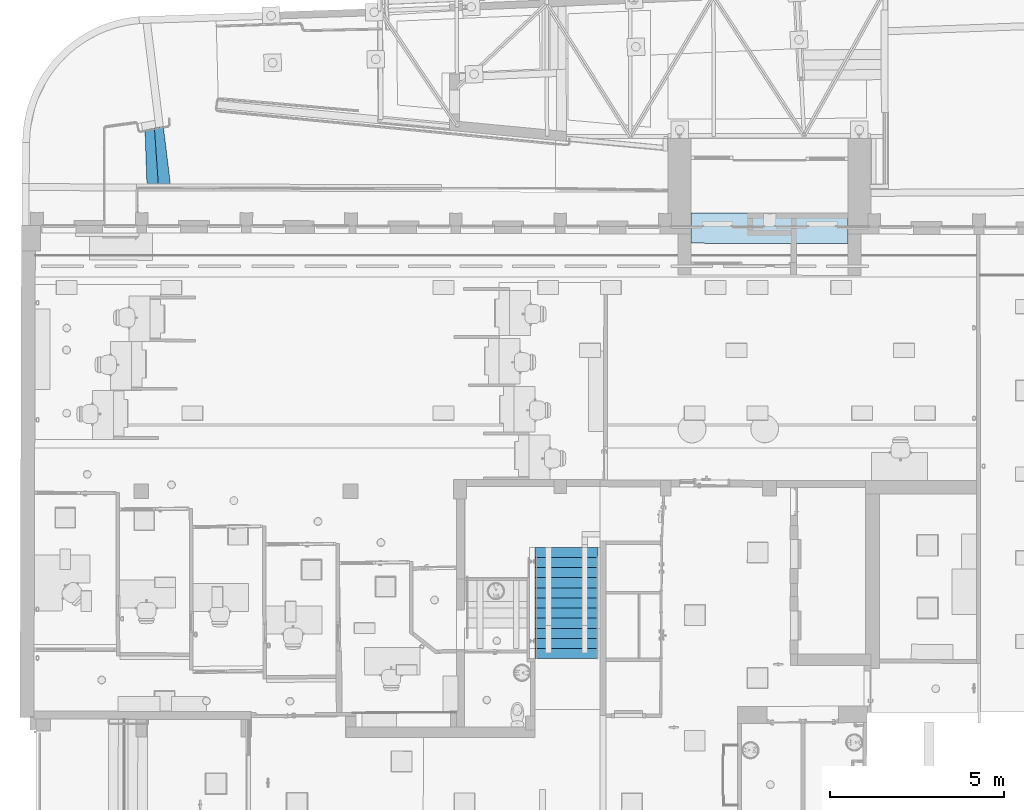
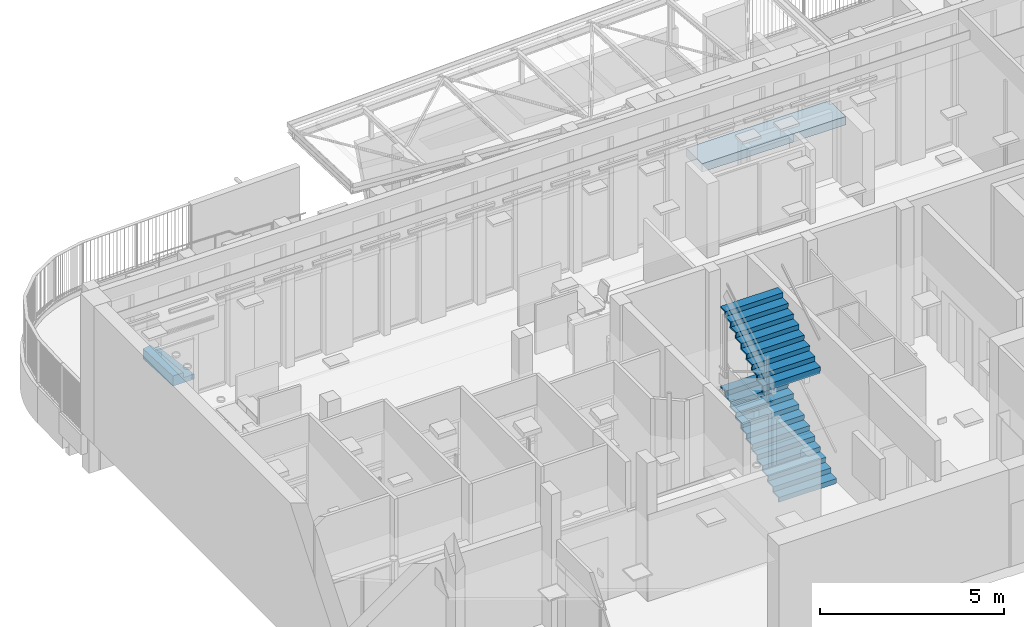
# One storey, part 34 of 128: 3 stair flights, 1 roof, 2 elements without a shape of their own.
"""IFC2X3 building model written with IfcOpenShell, lengths in metres."""

from ifc_helpers import new_model, entity, si_unit, converted_unit, derived_unit, direction, frame, origin, place, context, subcontext, project, spatial, polyline, outline, extrude, faceted_brep, material, layer, layer_set, type_object, element, aggregate, save


model = new_model("IFC2X3")

# Units and contexts
model_context = context("Model", 3, precision=1e-05, world=origin(), true_north=direction((6.123031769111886e-17, 1.0)))
body_context = subcontext(model_context, "Body", "Model", "MODEL_VIEW")
ifc_project = project(units=[si_unit("LENGTHUNIT", "METRE"), si_unit("AREAUNIT", "SQUARE_METRE"), converted_unit("PLANEANGLEUNIT", "DEGREE", entity("IfcPlaneAngleMeasure", 0.017453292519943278), si_unit("PLANEANGLEUNIT", "RADIAN"), dimensions=[0, 0, 0, 0, 0, 0, 0]), derived_unit("THERMALTRANSMITTANCEUNIT", [(si_unit("MASSUNIT", "GRAM", prefix="KILO"), 1), (si_unit("THERMODYNAMICTEMPERATUREUNIT", "KELVIN"), -1), (si_unit("TIMEUNIT", "SECOND"), -3)])], contexts=[model_context])

# Site, building, storey
site_placement = place(None, origin())
site = spatial("IfcSite", under=ifc_project, at=site_placement, Name="Default", CompositionType="ELEMENT")
building_placement = place(site_placement, origin())
building = spatial("IfcBuilding", under=site, at=building_placement, CompositionType="ELEMENT")
storey_placement = place(building_placement, origin())
storey = spatial("IfcBuildingStorey", under=building, at=storey_placement, Name="00_RDC CAF", CompositionType="ELEMENT", Elevation=2.4982504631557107e-13)

# Stair, stair flights
type_product_1 = type_object("IfcTypeProduct", Name="Escalier assemblé:E_Escalier_Assemble_Béton 2")
stair_1_placement = place(storey_placement, origin())
stair_1 = element("IfcStair", 1, at=stair_1_placement, inside=storey, type_object=type_product_1, Name="Escalier assemblé:Escalier", ObjectType="Escalier assemblé:E_Escalier_Assemble_Béton 2", ShapeType="NOTDEFINED")
ifc_material_1 = material(Name="STR - Beton")
stair_flight_type_1 = type_object("IfcStairFlightType", Name="Volée non-monobloc:Béton_Marche 50 mm avec Contremarche + nez 30mm 2", PredefinedType="STRAIGHT")
stair_flight_1_placement = place(stair_1_placement, origin())
stair_flight_1 = element("IfcStairFlight", 2, at=stair_flight_1_placement, type_object=stair_flight_type_1, material=ifc_material_1, Name="Escalier assemblé:Escalier:459485 Run 1", ObjectType="Volée non-monobloc:Béton_Marche 50 mm avec Contremarche + nez 30mm 2", NumberOfRiser=11, NumberOfTreads=11, RiserHeight=0.5776801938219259, TreadLength=0.9514435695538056, context=body_context, shape_type="SweptSolid", body=[
    extrude(outline(polyline([(-0.04265421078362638, -0.15400967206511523), (0.007667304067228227, -0.15400967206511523), (0.04265421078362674, 0.15400967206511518), (-0.007667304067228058, 0.1540096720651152), (-0.04265421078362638, -0.15400967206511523)])), frame((21.029127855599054, 131.91132267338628, 0.1510769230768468), z_axis=(1.0, 0.0, 0.0), x_axis=(0.0, 0.11286098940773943, -0.9936107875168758)), (0.0, 0.0, 1.0), 1.799999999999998),
    extrude(outline(polyline([(-0.0662834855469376, -0.02500000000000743), (0.06060414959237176, -0.025000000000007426), (0.06628348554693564, 0.024999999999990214), (-0.06060414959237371, 0.02499999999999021), (-0.0662834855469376, -0.02500000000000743)])), frame((21.029127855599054, 131.79148343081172, 0.06303846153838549), z_axis=(1.0, 0.0, 0.0), x_axis=(0.0, 0.11286098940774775, -0.9936107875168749)), (0.0, 0.0, 1.0), 1.7999999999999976),
    extrude(outline(polyline([(-0.09144424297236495, -0.02500000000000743), (0.0857649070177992, -0.02500000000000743), (0.09144424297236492, 0.025000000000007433), (-0.08576490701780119, 0.024999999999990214), (-0.09144424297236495, -0.02500000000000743)])), frame((21.029127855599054, 132.084323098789, 0.2141153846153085), z_axis=(1.0, 0.0, 0.0), x_axis=(0.0, 0.11286098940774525, -0.9936107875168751)), (0.0, 0.0, 1.0), 1.799999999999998),
    extrude(outline(polyline([(-0.04265421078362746, -0.15400967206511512), (0.007667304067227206, -0.15400967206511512), (0.042654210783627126, 0.15400967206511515), (-0.0076673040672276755, 0.15400967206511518), (-0.04265421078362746, -0.15400967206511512)])), frame((21.029127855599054, 132.2013226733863, 0.32715384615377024), z_axis=(1.0, 0.0, 0.0), x_axis=(0.0, 0.11286098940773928, -0.9936107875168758)), (0.0, 0.0, 1.0), 1.799999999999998),
    extrude(outline(polyline([(-0.09144424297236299, -0.024999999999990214), (0.08576490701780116, -0.024999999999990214), (0.09144424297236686, 0.025000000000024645), (-0.08576490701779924, 0.02500000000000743), (-0.09144424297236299, -0.024999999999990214)])), frame((21.029127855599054, 132.37432309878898, 0.3901923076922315), z_axis=(1.0, 0.0, 0.0), x_axis=(0.0, 0.11286098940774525, -0.9936107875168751)), (0.0, 0.0, 1.0), 1.799999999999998),
    extrude(outline(polyline([(-0.04265421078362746, -0.15400967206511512), (0.007667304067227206, -0.15400967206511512), (0.042654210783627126, 0.15400967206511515), (-0.0076673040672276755, 0.15400967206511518), (-0.04265421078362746, -0.15400967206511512)])), frame((21.029127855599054, 132.4913226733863, 0.5032307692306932), z_axis=(1.0, 0.0, 0.0), x_axis=(0.0, 0.11286098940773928, -0.9936107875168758)), (0.0, 0.0, 1.0), 1.799999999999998),
    extrude(outline(polyline([(-0.09144424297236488, -0.02500000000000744), (0.0857649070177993, -0.02500000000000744), (0.09144424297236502, 0.025000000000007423), (-0.08576490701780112, 0.02499999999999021), (-0.09144424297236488, -0.02500000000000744)])), frame((21.029127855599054, 132.664323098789, 0.5662692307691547), z_axis=(1.0, 0.0, 0.0), x_axis=(0.0, 0.11286098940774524, -0.9936107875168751)), (0.0, 0.0, 1.0), 1.799999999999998),
    extrude(outline(polyline([(-0.042654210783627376, -0.15400967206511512), (0.007667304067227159, -0.15400967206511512), (0.04265421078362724, 0.15400967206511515), (-0.007667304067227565, 0.15400967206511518), (-0.042654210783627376, -0.15400967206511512)])), frame((21.029127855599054, 132.78132267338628, 0.6793076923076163), z_axis=(1.0, 0.0, 0.0), x_axis=(0.0, 0.11286098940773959, -0.9936107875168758)), (0.0, 0.0, 1.0), 1.799999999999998),
    extrude(outline(polyline([(-0.09144424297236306, -0.024999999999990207), (0.08576490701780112, -0.02499999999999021), (0.09144424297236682, 0.02500000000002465), (-0.0857649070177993, 0.02500000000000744), (-0.09144424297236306, -0.024999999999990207)])), frame((21.029127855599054, 132.954323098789, 0.7423461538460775), z_axis=(1.0, 0.0, 0.0), x_axis=(0.0, 0.11286098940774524, -0.9936107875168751)), (0.0, 0.0, 1.0), 1.799999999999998),
    extrude(outline(polyline([(-0.04265421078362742, -0.15400967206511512), (0.00766730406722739, -0.15400967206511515), (0.04265421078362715, 0.15400967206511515), (-0.007667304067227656, 0.15400967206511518), (-0.04265421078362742, -0.15400967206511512)])), frame((21.029127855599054, 133.07132267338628, 0.8553846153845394), z_axis=(1.0, 0.0, 0.0), x_axis=(0.0, 0.11286098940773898, -0.9936107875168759)), (0.0, 0.0, 1.0), 1.7999999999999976),
    extrude(outline(polyline([(-0.09144424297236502, -0.025000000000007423), (0.08576490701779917, -0.025000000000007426), (0.09144424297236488, 0.02500000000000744), (-0.08576490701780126, 0.02499999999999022), (-0.09144424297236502, -0.025000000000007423)])), frame((21.029127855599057, 133.244323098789, 0.9184230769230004), z_axis=(1.0, 0.0, 0.0), x_axis=(0.0, 0.11286098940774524, -0.9936107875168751)), (0.0, 0.0, 1.0), 1.799999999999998),
    extrude(outline(polyline([(-0.04265421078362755, -0.15400967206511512), (0.007667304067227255, -0.15400967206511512), (0.04265421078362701, 0.15400967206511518), (-0.007667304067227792, 0.15400967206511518), (-0.04265421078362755, -0.15400967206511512)])), frame((21.029127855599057, 133.3613226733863, 1.0314615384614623), z_axis=(1.0, 0.0, 0.0), x_axis=(0.0, 0.11286098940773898, -0.9936107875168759)), (0.0, 0.0, 1.0), 1.7999999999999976),
    extrude(outline(polyline([(-0.09144424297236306, -0.024999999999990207), (0.08576490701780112, -0.02499999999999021), (0.09144424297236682, 0.02500000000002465), (-0.0857649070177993, 0.02500000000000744), (-0.09144424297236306, -0.024999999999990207)])), frame((21.029127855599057, 133.534323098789, 1.0944999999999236), z_axis=(1.0, 0.0, 0.0), x_axis=(0.0, 0.11286098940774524, -0.9936107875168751)), (0.0, 0.0, 1.0), 1.799999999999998),
    extrude(outline(polyline([(-0.04265421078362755, -0.15400967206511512), (0.007667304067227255, -0.15400967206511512), (0.04265421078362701, 0.15400967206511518), (-0.007667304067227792, 0.15400967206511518), (-0.04265421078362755, -0.15400967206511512)])), frame((21.029127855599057, 133.6513226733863, 1.2075384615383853), z_axis=(1.0, 0.0, 0.0), x_axis=(0.0, 0.11286098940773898, -0.9936107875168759)), (0.0, 0.0, 1.0), 1.7999999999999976),
    extrude(outline(polyline([(-0.09144424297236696, -0.025000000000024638), (0.0857649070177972, -0.02500000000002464), (0.09144424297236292, 0.02499999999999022), (-0.0857649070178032, 0.02499999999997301), (-0.09144424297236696, -0.025000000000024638)])), frame((21.029127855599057, 133.82432309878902, 1.2705769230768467), z_axis=(1.0, 0.0, 0.0), x_axis=(0.0, 0.11286098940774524, -0.9936107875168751)), (0.0, 0.0, 1.0), 1.799999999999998),
    extrude(outline(polyline([(-0.04265421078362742, -0.15400967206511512), (0.00766730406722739, -0.15400967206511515), (0.04265421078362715, 0.15400967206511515), (-0.007667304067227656, 0.15400967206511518), (-0.04265421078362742, -0.15400967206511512)])), frame((21.029127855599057, 133.94132267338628, 1.3836153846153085), z_axis=(1.0, 0.0, 0.0), x_axis=(0.0, 0.11286098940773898, -0.9936107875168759)), (0.0, 0.0, 1.0), 1.7999999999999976),
    extrude(outline(polyline([(-0.09144424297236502, -0.025000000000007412), (0.08576490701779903, -0.025000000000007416), (0.09144424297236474, 0.025000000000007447), (-0.08576490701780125, 0.02499999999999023), (-0.09144424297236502, -0.025000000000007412)])), frame((21.029127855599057, 134.114323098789, 1.4466538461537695), z_axis=(1.0, 0.0, 0.0), x_axis=(0.0, 0.11286098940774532, -0.9936107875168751)), (0.0, 0.0, 1.0), 1.799999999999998),
    extrude(outline(polyline([(-0.04265421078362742, -0.15400967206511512), (0.00766730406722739, -0.15400967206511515), (0.04265421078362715, 0.15400967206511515), (-0.007667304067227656, 0.15400967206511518), (-0.04265421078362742, -0.15400967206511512)])), frame((21.029127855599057, 134.23132267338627, 1.5596923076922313), z_axis=(1.0, 0.0, 0.0), x_axis=(0.0, 0.11286098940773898, -0.9936107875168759)), (0.0, 0.0, 1.0), 1.7999999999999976),
    extrude(outline(polyline([(-0.09144424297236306, -0.024999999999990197), (0.08576490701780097, -0.0249999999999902), (0.0914442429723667, 0.02500000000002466), (-0.0857649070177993, 0.025000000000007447), (-0.09144424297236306, -0.024999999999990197)])), frame((21.029127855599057, 134.40432309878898, 1.6227307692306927), z_axis=(1.0, 0.0, 0.0), x_axis=(0.0, 0.11286098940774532, -0.9936107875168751)), (0.0, 0.0, 1.0), 1.799999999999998),
    extrude(outline(polyline([(-0.04265421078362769, -0.15400967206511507), (0.0076673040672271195, -0.15400967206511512), (0.04265421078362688, 0.15400967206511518), (-0.007667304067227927, 0.15400967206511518), (-0.04265421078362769, -0.15400967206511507)])), frame((21.029127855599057, 134.5213226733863, 1.7357692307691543), z_axis=(1.0, 0.0, 0.0), x_axis=(0.0, 0.11286098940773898, -0.9936107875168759)), (0.0, 0.0, 1.0), 1.7999999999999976),
    extrude(outline(polyline([(-0.09144424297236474, -0.025000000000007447), (0.0857649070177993, -0.025000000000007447), (0.09144424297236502, 0.025000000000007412), (-0.08576490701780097, 0.0249999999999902), (-0.09144424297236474, -0.025000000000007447)])), frame((21.029127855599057, 134.694323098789, 1.798807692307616), z_axis=(1.0, 0.0, 0.0), x_axis=(0.0, 0.11286098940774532, -0.9936107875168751)), (0.0, 0.0, 1.0), 1.799999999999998),
    extrude(outline(polyline([(-0.04136535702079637, -0.14266280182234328), (0.008956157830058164, -0.14266280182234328), (0.041044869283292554, 0.13984127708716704), (-0.00863567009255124, 0.14548432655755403), (-0.04136535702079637, -0.14266280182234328)])), frame((21.029127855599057, 134.79990283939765, 1.9118461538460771), z_axis=(1.0, 0.0, 0.0), x_axis=(0.0, 0.11286098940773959, -0.9936107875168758)), (0.0, 0.0, 1.0), 1.799999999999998),
])
stair_flight_2_placement = place(stair_1_placement, origin())
stair_flight_2 = element("IfcStairFlight", 3, at=stair_flight_2_placement, type_object=stair_flight_type_1, material=ifc_material_1, Name="Escalier assemblé:Escalier:459485 Run 3", ObjectType="Volée non-monobloc:Béton_Marche 50 mm avec Contremarche + nez 30mm 2", NumberOfRiser=8, NumberOfTreads=8, RiserHeight=0.5776801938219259, TreadLength=0.9514435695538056, context=body_context, shape_type="SweptSolid", body=[
    extrude(outline(polyline([(-0.04265421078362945, -0.1540096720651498), (0.007667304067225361, -0.15400967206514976), (0.04265421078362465, 0.15400967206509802), (-0.007667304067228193, 0.1540096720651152), (-0.04265421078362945, -0.1540096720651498)])), frame((21.02912785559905, 132.7813226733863, 3.3204615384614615), z_axis=(1.0, 0.0, 0.0), x_axis=(0.0, 0.11286098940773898, -0.9936107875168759)), (0.0, 0.0, 1.0), 1.8000000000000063),
    extrude(outline(polyline([(-0.091444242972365, -0.02500000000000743), (0.0857649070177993, -0.02500000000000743), (0.091444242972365, 0.02500000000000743), (-0.08576490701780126, 0.024999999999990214), (-0.091444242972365, -0.02500000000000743)])), frame((21.02912785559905, 132.66432309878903, 3.2074230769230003), z_axis=(1.0, 0.0, 0.0), x_axis=(0.0, 0.11286098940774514, -0.9936107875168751)), (0.0, 0.0, 1.0), 1.8000000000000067),
    extrude(outline(polyline([(-0.091444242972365, -0.02500000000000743), (0.0857649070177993, -0.02500000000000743), (0.091444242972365, 0.02500000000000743), (-0.08576490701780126, 0.024999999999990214), (-0.091444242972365, -0.02500000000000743)])), frame((21.02912785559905, 132.95432309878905, 3.383499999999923), z_axis=(1.0, 0.0, 0.0), x_axis=(0.0, 0.11286098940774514, -0.9936107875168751)), (0.0, 0.0, 1.0), 1.8000000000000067),
    extrude(outline(polyline([(-0.042654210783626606, -0.1540096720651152), (0.007667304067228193, -0.1540096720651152), (0.04265421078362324, 0.15400967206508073), (-0.007667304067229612, 0.15400967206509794), (-0.042654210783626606, -0.1540096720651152)])), frame((21.029127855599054, 133.07132267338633, 3.4965384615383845), z_axis=(1.0, 0.0, 0.0), x_axis=(0.0, 0.11286098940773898, -0.9936107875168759)), (0.0, 0.0, 1.0), 1.8000000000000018),
    extrude(outline(polyline([(-0.091444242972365, -0.02500000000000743), (0.0857649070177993, -0.02500000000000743), (0.091444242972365, 0.02500000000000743), (-0.08576490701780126, 0.024999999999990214), (-0.091444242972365, -0.02500000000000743)])), frame((21.02912785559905, 133.244323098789, 3.559576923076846), z_axis=(1.0, 0.0, 0.0), x_axis=(0.0, 0.11286098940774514, -0.9936107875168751)), (0.0, 0.0, 1.0), 1.8000000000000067),
    extrude(outline(polyline([(-0.042654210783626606, -0.1540096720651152), (0.007667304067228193, -0.1540096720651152), (0.04265421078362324, 0.15400967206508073), (-0.007667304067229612, 0.15400967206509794), (-0.042654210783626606, -0.1540096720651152)])), frame((21.029127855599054, 133.3613226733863, 3.672615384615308), z_axis=(1.0, 0.0, 0.0), x_axis=(0.0, 0.11286098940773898, -0.9936107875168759)), (0.0, 0.0, 1.0), 1.8000000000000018),
    extrude(outline(polyline([(-0.091444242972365, -0.02500000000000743), (0.0857649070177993, -0.02500000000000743), (0.091444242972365, 0.02500000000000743), (-0.08576490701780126, 0.024999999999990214), (-0.091444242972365, -0.02500000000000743)])), frame((21.029127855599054, 133.53432309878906, 3.7356538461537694), z_axis=(1.0, 0.0, 0.0), x_axis=(0.0, 0.11286098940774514, -0.9936107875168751)), (0.0, 0.0, 1.0), 1.8000000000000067),
    extrude(outline(polyline([(-0.042654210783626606, -0.1540096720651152), (0.007667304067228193, -0.1540096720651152), (0.04265421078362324, 0.15400967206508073), (-0.007667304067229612, 0.15400967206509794), (-0.042654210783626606, -0.1540096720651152)])), frame((21.029127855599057, 133.65132267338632, 3.848692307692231), z_axis=(1.0, 0.0, 0.0), x_axis=(0.0, 0.11286098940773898, -0.9936107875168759)), (0.0, 0.0, 1.0), 1.8000000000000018),
    extrude(outline(polyline([(-0.091444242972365, -0.02500000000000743), (0.0857649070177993, -0.02500000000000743), (0.091444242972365, 0.02500000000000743), (-0.08576490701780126, 0.024999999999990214), (-0.091444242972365, -0.02500000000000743)])), frame((21.029127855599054, 133.82432309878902, 3.9117307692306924), z_axis=(1.0, 0.0, 0.0), x_axis=(0.0, 0.11286098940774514, -0.9936107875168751)), (0.0, 0.0, 1.0), 1.8000000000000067),
    extrude(outline(polyline([(-0.04265421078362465, -0.15400967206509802), (0.00766730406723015, -0.154009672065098), (0.04265421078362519, 0.15400967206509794), (-0.007667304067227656, 0.15400967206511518), (-0.04265421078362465, -0.15400967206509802)])), frame((21.029127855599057, 133.9413226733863, 4.024769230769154), z_axis=(1.0, 0.0, 0.0), x_axis=(0.0, 0.11286098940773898, -0.9936107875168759)), (0.0, 0.0, 1.0), 1.8000000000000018),
    extrude(outline(polyline([(-0.09144424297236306, -0.024999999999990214), (0.08576490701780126, -0.024999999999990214), (0.09144424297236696, 0.025000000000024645), (-0.0857649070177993, 0.02500000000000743), (-0.09144424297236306, -0.024999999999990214)])), frame((21.029127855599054, 134.11432309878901, 4.087807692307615), z_axis=(1.0, 0.0, 0.0), x_axis=(0.0, 0.11286098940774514, -0.9936107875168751)), (0.0, 0.0, 1.0), 1.8000000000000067),
    extrude(outline(polyline([(-0.04265421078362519, -0.15400967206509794), (0.007667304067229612, -0.15400967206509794), (0.04265421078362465, 0.15400967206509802), (-0.007667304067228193, 0.1540096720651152), (-0.04265421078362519, -0.15400967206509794)])), frame((21.029127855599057, 134.2313226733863, 4.200846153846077), z_axis=(1.0, 0.0, 0.0), x_axis=(0.0, 0.11286098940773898, -0.9936107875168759)), (0.0, 0.0, 1.0), 1.8000000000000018),
    extrude(outline(polyline([(-0.09144424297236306, -0.024999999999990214), (0.08576490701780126, -0.024999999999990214), (0.09144424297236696, 0.025000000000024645), (-0.0857649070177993, 0.02500000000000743), (-0.09144424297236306, -0.024999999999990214)])), frame((21.029127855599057, 134.40432309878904, 4.263884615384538), z_axis=(1.0, 0.0, 0.0), x_axis=(0.0, 0.11286098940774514, -0.9936107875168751)), (0.0, 0.0, 1.0), 1.8000000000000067),
    extrude(outline(polyline([(-0.04265421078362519, -0.15400967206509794), (0.007667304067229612, -0.15400967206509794), (0.04265421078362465, 0.15400967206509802), (-0.007667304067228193, 0.1540096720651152), (-0.04265421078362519, -0.15400967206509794)])), frame((21.029127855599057, 134.52132267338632, 4.376923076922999), z_axis=(1.0, 0.0, 0.0), x_axis=(0.0, 0.11286098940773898, -0.9936107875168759)), (0.0, 0.0, 1.0), 1.8000000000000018),
    extrude(outline(polyline([(-0.09144424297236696, -0.025000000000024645), (0.08576490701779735, -0.025000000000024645), (0.09144424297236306, 0.024999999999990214), (-0.0857649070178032, 0.024999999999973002), (-0.09144424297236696, -0.025000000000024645)])), frame((21.02912785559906, 134.69432309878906, 4.439961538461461), z_axis=(1.0, 0.0, 0.0), x_axis=(0.0, 0.11286098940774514, -0.9936107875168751)), (0.0, 0.0, 1.0), 1.8000000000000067),
    extrude(outline(polyline([(-0.0413653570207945, -0.14266280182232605), (0.008956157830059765, -0.14266280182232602), (0.041044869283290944, 0.1398412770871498), (-0.008635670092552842, 0.1454843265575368), (-0.0413653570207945, -0.14266280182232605)])), frame((21.02912785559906, 134.79990283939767, 4.552999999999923), z_axis=(1.0, 0.0, 0.0), x_axis=(0.0, 0.11286098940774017, -0.9936107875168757)), (0.0, 0.0, 1.0), 1.8000000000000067),
])
aggregate(stair_1, [stair_flight_1, stair_flight_2])

# Stair, stair flight
type_product_2 = type_object("IfcTypeProduct", Name="Escalier coulé sur place:E_Coule_en_place_Beton_Paillasse_550mm")
stair_2_placement = place(storey_placement, origin())
stair_2 = element("IfcStair", 4, at=stair_2_placement, inside=storey, type_object=type_product_2, Name="Escalier coulé sur place:Escalier", ObjectType="Escalier coulé sur place:E_Coule_en_place_Beton_Paillasse_550mm", ShapeType="STRAIGHT_RUN_STAIR")
ifc_material_2 = material(Name="<Unnamed>")
stair_flight_type_2 = type_object("IfcStairFlightType", Name="Volée monobloc:E_Beton_550 mm", PredefinedType="NOTDEFINED")
stair_flight_3_placement = place(stair_2_placement, frame((9.844149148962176, 145.37748300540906, 0.0)))
stair_flight_3 = element("IfcStairFlight", 5, at=stair_flight_3_placement, type_object=stair_flight_type_2, material=ifc_material_2, Name="Escalier coulé sur place:Escalier:460808 Run 1", ObjectType="Volée monobloc:E_Beton_550 mm", NumberOfRiser=3, NumberOfTreads=2, RiserHeight=0.5468066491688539, TreadLength=0.9842519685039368, context=body_context, shape_type="Brep", body=[
    faceted_brep([(0.37939208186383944, 0.0, -0.33333333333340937), (0.7249937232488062, 0.0, -0.33333333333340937), (0.5251441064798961, 1.6318585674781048, -0.33333333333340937), (0.2701927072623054, 1.5823010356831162, -0.33333333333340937), (0.37939208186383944, 0.0, -0.49999999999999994), (0.7249937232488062, 0.0, -0.49999999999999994), (0.5251441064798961, 1.6318585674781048, -0.49999999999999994), (0.27019270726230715, 1.5823010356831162, -0.49999999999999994), (0.053421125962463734, 0.0, -0.49999999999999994), (0.0, 1.5297808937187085, -0.49999999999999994), (0.053421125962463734, 0.0, -0.1666666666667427), (0.37939208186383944, 0.0, -0.1666666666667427), (0.27019270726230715, 1.5823010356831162, -0.1666666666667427), (0.0, 1.5297808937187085, -0.1666666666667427)], [[[0, 1, 2, 3]], [[1, 0, 4, 5]], [[2, 1, 5, 6]], [[3, 2, 6, 7]], [[5, 4, 8, 9, 7, 6]], [[10, 11, 12, 13]], [[4, 0, 11, 10, 8]], [[0, 3, 12, 11]], [[3, 7, 9, 13, 12]], [[10, 13, 9, 8]]]),
])
aggregate(stair_2, [stair_flight_3])

# Roof
ifc_material_3 = material(Name="STR - Beton Mur")
ifc_layer = layer(ifc_material_3, 0.28)
ifc_layer_set = layer_set([ifc_layer], Name="Toit de base:Co_Plafond_Entrée_280mm")
type_product_3 = type_object("IfcTypeProduct", Name="Toit de base:Co_Plafond_Entrée_280mm")
roof_placement = place(storey_placement, frame((25.48957337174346, 143.6535051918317, 2.1710530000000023)))
element("IfcRoof", 6, at=roof_placement, inside=storey, type_object=type_product_3, material=ifc_layer_set, Name="Toit de base:Co_Plafond_Entrée_280mm", ObjectType="Toit de base:Co_Plafond_Entrée_280mm", ShapeType="NOTDEFINED", context=body_context, shape_type="Brep", body=[
    faceted_brep([(0.0016431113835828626, 0.8733686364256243, 0.0), (4.5011516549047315, 0.8733686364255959, 0.0), (4.5011516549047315, 0.0, 0.0), (0.0, 0.008551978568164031, 0.0), (0.0023937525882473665, 0.8733686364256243, 0.28000000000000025), (0.0016431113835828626, 0.8733686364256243, 0.28000000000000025), (0.0009063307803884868, 0.485579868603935, 0.28000000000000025), (0.0016569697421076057, 0.4855786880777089, 0.28000000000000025), (0.0023937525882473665, 0.8733686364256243, 0.2789469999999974), (4.5011516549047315, 0.8733686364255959, 0.2789469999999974), (0.0, 0.008551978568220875, 0.2789469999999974), (0.0009063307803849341, 0.4855798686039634, 0.2789469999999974), (4.5011516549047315, 0.0, 0.2789469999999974), (4.5011516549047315, 0.47850235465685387, 0.2789469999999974), (0.001656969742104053, 0.48557868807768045, 0.2789469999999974)], [[[0, 1, 2, 3]], [[4, 5, 6, 7]], [[1, 0, 5, 4, 8, 9]], [[0, 3, 10, 11, 6, 5]], [[3, 2, 12, 10]], [[2, 1, 9, 13, 12]], [[8, 14, 11, 10, 12, 13, 9]], [[14, 8, 4, 7]], [[11, 14, 7, 6]]]),
])

save(model, "model.ifc")
